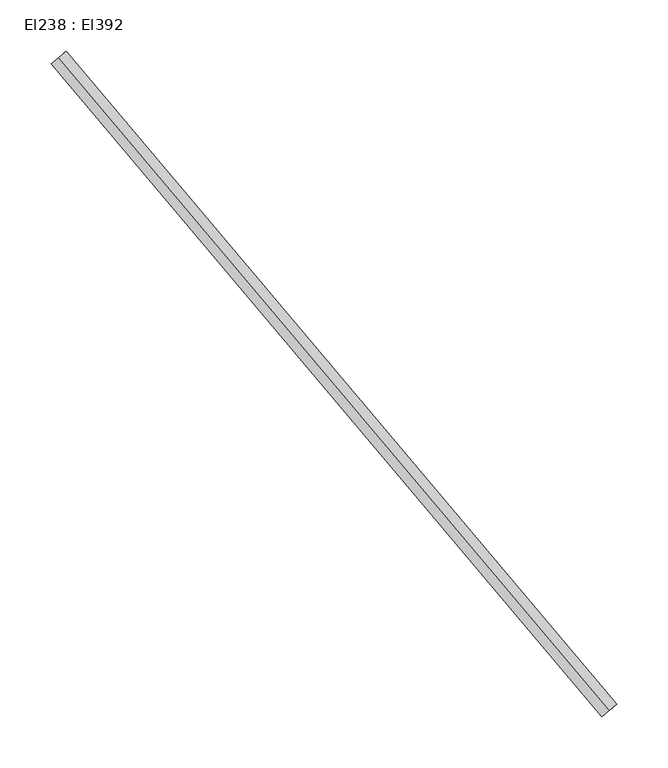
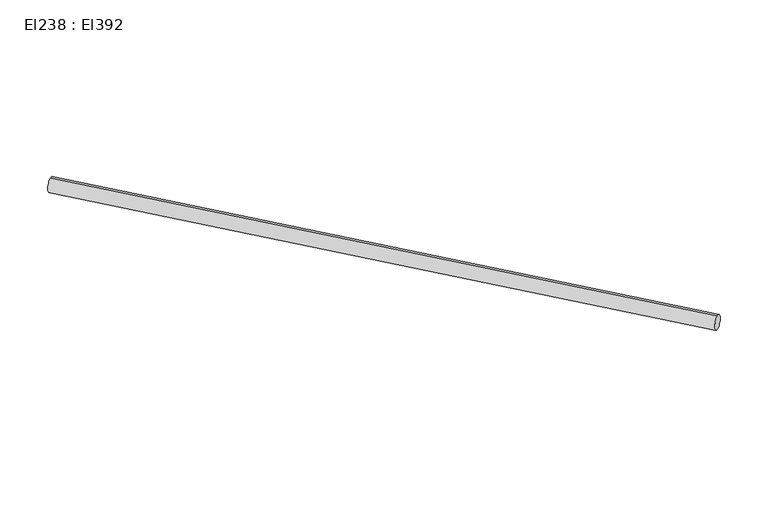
"""IFC4 building model written with IfcOpenShell, lengths in millimetres: cable carrier segment geometry, El238 : El392."""

from ifc_helpers import new_model, si_unit, point, frame, frame_2d, origin, place, context, project, spatial, circle_curve, trimmed, segment, composite_curve, outline, extrude, source, transform, mapped, element, save


def el238_el392_619ccad4(model_context):
    return source(origin(), model_context, "Body", "SweptSolid", [
        extrude(outline(composite_curve([segment(trimmed(circle_curve(frame_2d((0.0, -9.5)), 9.5), [point((0.0, -19.0))], [point((0.0, 0.0))], False, "CARTESIAN"), True, "CONTINUOUS"), segment(trimmed(circle_curve(frame_2d((0.0, -9.5)), 9.5), [point((0.0, 0.0))], [point((0.0, -19.0))], False, "CARTESIAN"), True, "CONTINUOUS")], self_intersect=False)), frame((10463.3989214, -7838.2966363, 1509.5), z_axis=(-0.6449716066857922, 0.7642065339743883, 0.0), x_axis=(-0.7642065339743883, -0.6449716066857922, 0.0)), (0.0, 0.0, 1.0), 832.051),
    ])


if __name__ == "__main__":
    model = new_model("IFC4")
    model_context = context("Model", 3, world=origin())
    ifc_project = project(units=[si_unit("LENGTHUNIT", "METRE", prefix="MILLI")], contexts=[model_context])
    site = spatial("IfcSite", under=ifc_project)
    building = spatial("IfcBuilding", under=site)
    placement = place(None, origin())
    el238_el392_shape = el238_el392_619ccad4(model_context)
    element("IfcCableCarrierSegment", 1, ObjectType="El238 : El392", at=placement, inside=building, context=model_context, shape_type="MappedRepresentation", body=[
        mapped(el238_el392_shape, transform((0.0, 0.0, 0.0), x_axis=(1.0, 0.0, 0.0), y_axis=(0.0, 1.0, 0.0), z_axis=(0.0, 0.0, 1.0))),
    ])
    save(model, "model.ifc")
